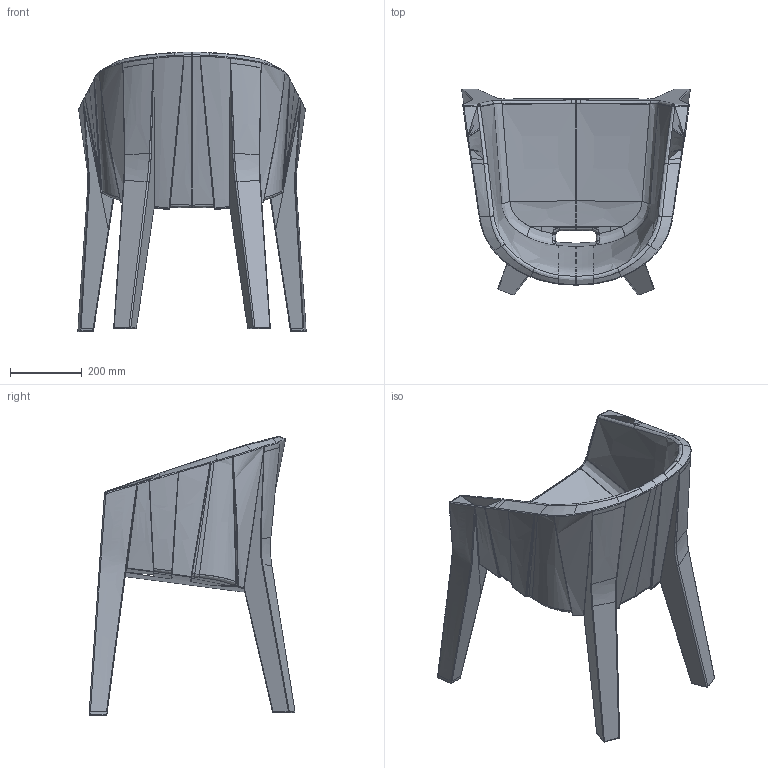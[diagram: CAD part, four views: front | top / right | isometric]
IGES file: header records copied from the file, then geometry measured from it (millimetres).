
Start section: START RECORD GO HERE.
Global section: file name: FROZEN chair_design by Matteo Ragni-Maurizio Prina_PLUST 2015.igs; native system: DASSAULT SYSTEMES CATIA Version 5-6 Release 2014 - www.3ds.com; preprocessor: V5-6R2014_5.24.0.0.01-15-2014.20.00; author: forrico; organization: DOMAIN; date: 20150428.122746; units: millimetre
Bounding box: 635.47 x 573.02 x 777.18 mm (x, y, z)
Surface area: 1644239.6 mm2 (no closed solid volume)
Topology: 0 solids, 0 shells, 691 faces, 3765 edges, 3717 vertices
Faces by surface type: bspline 691
